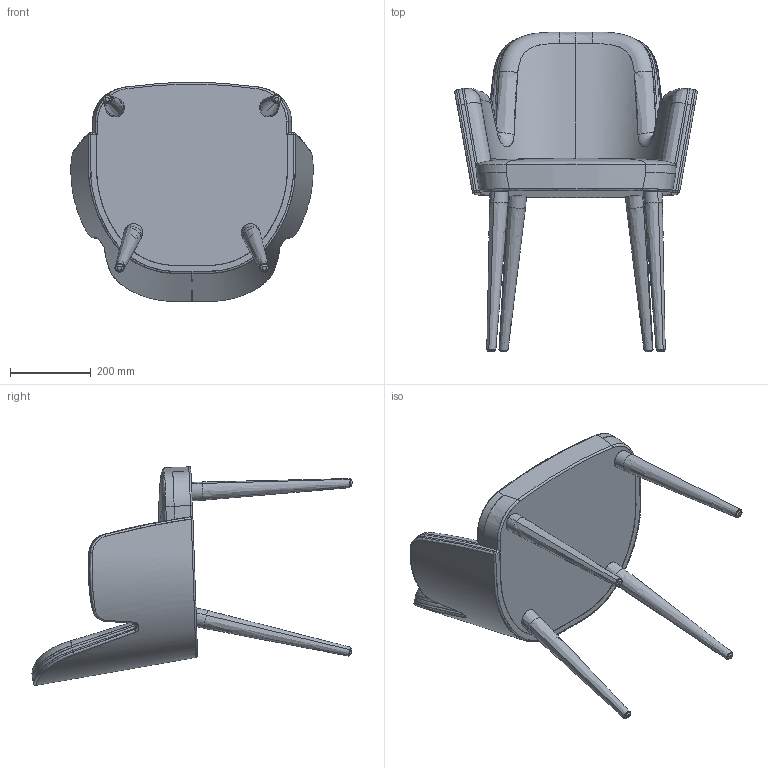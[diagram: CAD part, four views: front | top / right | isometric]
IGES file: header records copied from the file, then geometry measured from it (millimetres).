
Start section: SolidWorks IGES file using analytic representation for surfaces
Global section: file name: \\192.168.0.3\Dados\IP&C\03. Produtos MS\ANNA\02. MARKETING\07. SITE\3D\IGS\AN001.IGS; native system: SolidWorks 2021; preprocessor: SolidWorks 2021; author: Marketing; date: 220413.160959; units: millimetre
Bounding box: 600.21 x 792.5 x 541.97 mm (x, y, z)
Surface area: 1192146.4 mm2 (no closed solid volume)
Topology: 0 solids, 0 shells, 214 faces, 4121 edges, 4106 vertices
Faces by surface type: bspline 180, revolution 34
